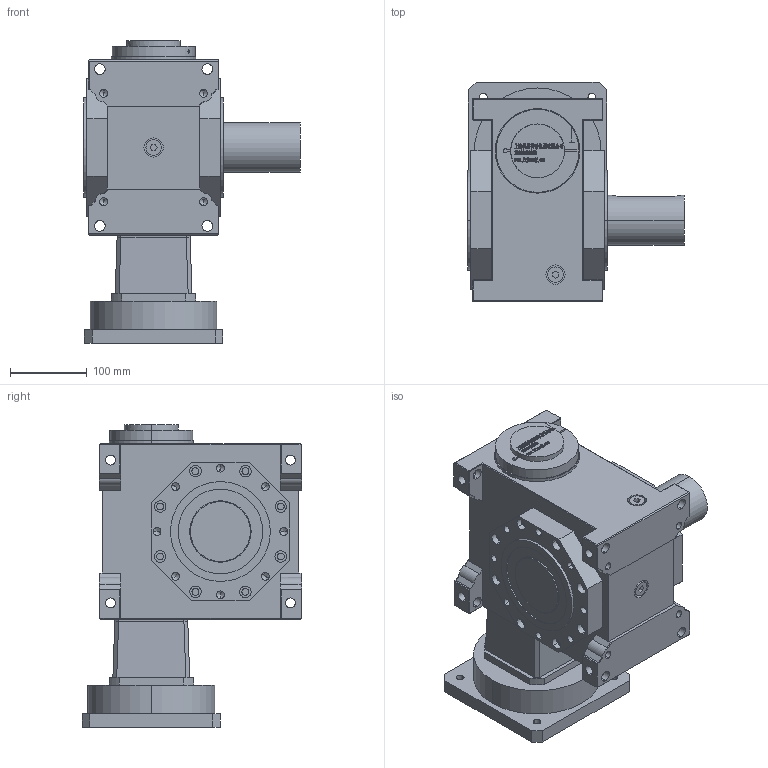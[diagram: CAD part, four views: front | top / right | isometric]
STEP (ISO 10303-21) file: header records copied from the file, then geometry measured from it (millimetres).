
FILE_DESCRIPTION (( 'STEP AP203' ), '1' );
FILE_NAME ('FXLB090-(5~90)-ASR-35-114.3-200-M12.step', '2022-11-05T14:13:43', ( '' ), ( '' ), 'SwSTEP 2.0', 'SolidWorks 2020', '' );
FILE_SCHEMA (( 'CONFIG_CONTROL_DESIGN' ));
Length unit declared in the file: millimetre
Products named in the file (8): JDLB090-ASR________65.step; FXLB090-(5~90)-ASR-35-114.3-200-M12.step; 錨璃33^FXLB090-(5~90)-ASR-35-114.3-200-M12; ST180-114.3-200-M12____________.step; JDLB090-ST110________1.step; ______BD68-73.3-28-35____.step; FXLB090-(5~90)-ASR-35-114.3-200-M12; JDLB090-CR____.step
Assembly tree (7 placements, depth 3):
  FXLB090-(5~90)-ASR-35-114.3-200-M12
    FXLB090-(5~90)-ASR-35-114.3-200-M12.step
      JDLB090-CR____.step
      JDLB090-ST110________1.step
      ST180-114.3-200-M12____________.step
      ______BD68-73.3-28-35____.step
      JDLB090-ASR________65.step
    錨璃33^FXLB090-(5~90)-ASR-35-114.3-200-M12
Bounding box: 282 x 286 x 394.2 mm (x, y, z)
Volume: 11058070.2 mm3; surface area: 752422.3 mm2
Topology: 81 solids, 81 shells, 2567 faces, 6763 edges, 4412 vertices
Faces by surface type: plane 1506, bspline 572, cylinder 383, cone 90, torus 16
Entity records: 106096 total; most frequent: CARTESIAN_POINT 45380, ORIENTED_EDGE 13382, DIRECTION 10339, EDGE_CURVE 6691, LINE 4621, VECTOR 4621, VERTEX_POINT 4412, AXIS2_PLACEMENT_3D 2859
